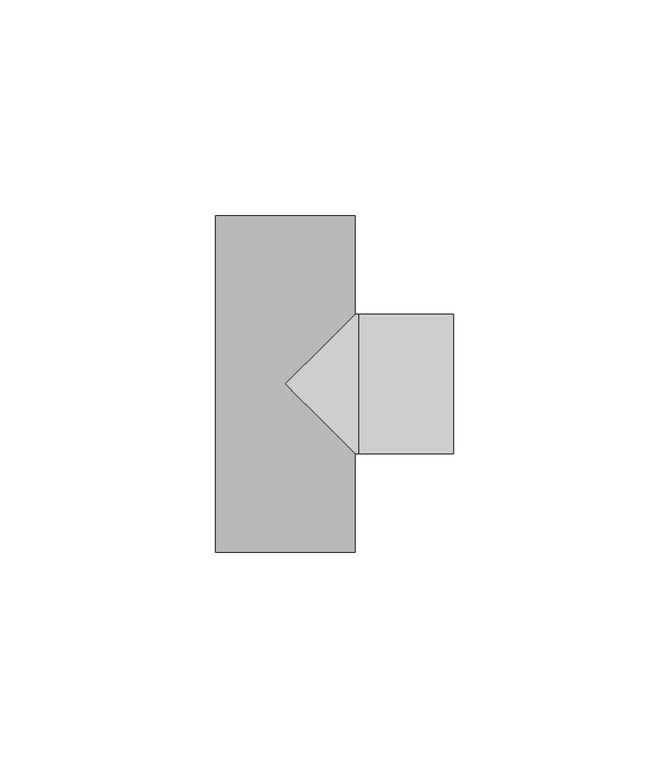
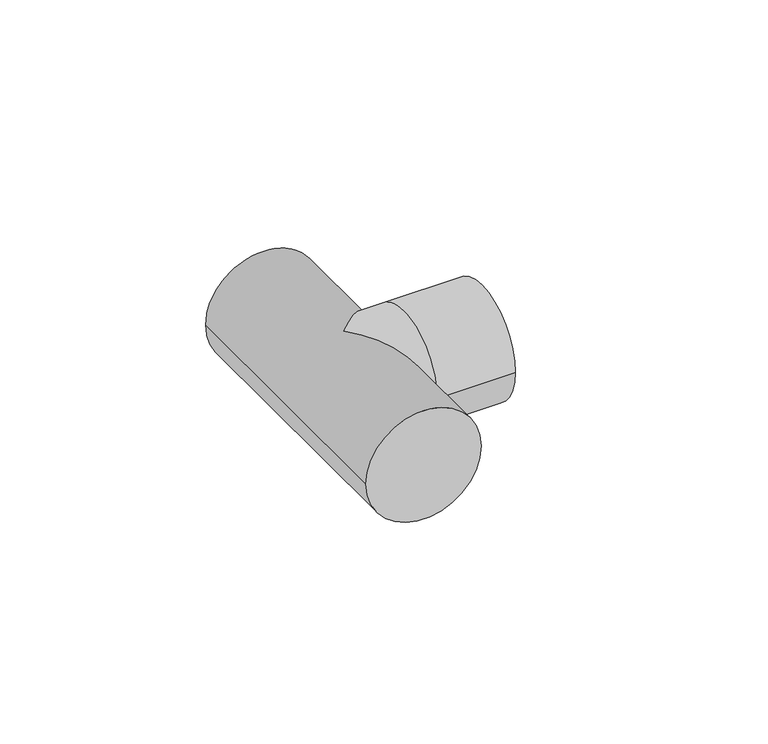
"""IFC4 building model written with IfcOpenShell, lengths in millimetres: pipe fitting geometry, 01051003 : Tes 90º."""

from ifc_helpers import new_model, si_unit, frame, origin, place, context, project, spatial, circle_curve, ellipse_curve, source, transform, mapped, element, save
from ifc_brep_helpers import plane_surface, cylinder_surface, advanced_brep


def pipe_fitting_1fd3e70e(model_context):
    return source(origin(), model_context, "Body", "AdvancedBrep", [
        advanced_brep(
        [(-16.15, 39.0, 0.0), (16.15, 39.0, 0.0), (-16.15, -39.0, 0.0), (16.15, -39.0, 0.0), (16.15, -16.15, 0.0), (0.0, 0.0, 16.15), (16.15, 16.15, 0.0), (0.0, 0.0, -16.15), (39.0, 16.15, 0.0), (39.0, -16.15, 0.0), (17.0, -16.15, 0.0), (17.0, 16.15, 0.0)],
        [
            (0, 1, circle_curve(frame((0.0, 39.0, 0.0), z_axis=(0.0, 1.0, 0.0), x_axis=(1.0, 0.0, 0.0)), 16.15)),
            (1, 0, circle_curve(frame((0.0, 39.0, 0.0), z_axis=(0.0, 1.0, 0.0), x_axis=(1.0, 0.0, 0.0)), 16.15)),
            (2, 3, circle_curve(frame((0.0, -39.0, 0.0), z_axis=(0.0, -1.0, 0.0), x_axis=(1.0, 0.0, 0.0)), 16.15)),
            (3, 2, circle_curve(frame((0.0, -39.0, 0.0), z_axis=(0.0, -1.0, 0.0), x_axis=(1.0, 0.0, 0.0)), 16.15)),
            (0, 2),
            (3, 4),
            (4, 5, ellipse_curve(frame((0.0, 0.0, 0.0), z_axis=(-0.7071067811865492, -0.7071067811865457, 0.0), x_axis=(-0.7071067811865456, 0.7071067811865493, 0.0)), 22.839549, 16.15)),
            (5, 6, ellipse_curve(frame((0.0, 0.0, 0.0), z_axis=(-0.7071067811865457, 0.7071067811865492, 0.0), x_axis=(0.7071067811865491, 0.7071067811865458, 0.0)), 22.839549, 16.15)),
            (6, 1),
            (6, 7, ellipse_curve(frame((0.0, 0.0, 0.0), z_axis=(-0.7071067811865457, 0.7071067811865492, 0.0), x_axis=(0.7071067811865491, 0.7071067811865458, 0.0)), 22.839549, 16.15)),
            (7, 4, ellipse_curve(frame((0.0, 0.0, 0.0), z_axis=(-0.7071067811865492, -0.7071067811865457, 0.0), x_axis=(-0.7071067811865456, 0.7071067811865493, 0.0)), 22.839549, 16.15)),
            (8, 9, circle_curve(frame((39.0, 0.0, 0.0), z_axis=(1.0, 0.0, 0.0), x_axis=(0.0, -1.0, 0.0)), 16.15)),
            (9, 8, circle_curve(frame((39.0, 0.0, 0.0), z_axis=(1.0, 0.0, 0.0), x_axis=(0.0, -1.0, 0.0)), 16.15)),
            (10, 11, circle_curve(frame((17.0, 0.0, 0.0), z_axis=(-1.0, 0.0, 0.0), x_axis=(0.0, -1.0, 0.0)), 16.15)),
            (11, 6),
            (4, 10),
            (11, 10, circle_curve(frame((17.0, 0.0, 0.0), z_axis=(-1.0, 0.0, 0.0), x_axis=(0.0, -1.0, 0.0)), 16.15)),
            (8, 11),
            (10, 9),
        ],
        [
            plane_surface(frame((0.0, 39.0, 0.0), z_axis=(0.0, 1.0, 0.0), x_axis=(0.0, 0.0, 1.0))),
            plane_surface(frame((0.0, -39.0, 0.0), z_axis=(0.0, -1.0, 0.0), x_axis=(0.0, 0.0, 1.0))),
            cylinder_surface(frame((0.0, 39.0, 0.0), z_axis=(0.0, 1.0, 0.0), x_axis=(1.0, 0.0, 0.0)), 16.15),
            plane_surface(frame((39.0, 0.0, 0.0), z_axis=(1.0, 0.0, 0.0), x_axis=(0.0, 0.0, 1.0))),
            cylinder_surface(frame((17.0, 0.0, 0.0), z_axis=(1.0, 0.0, 0.0), x_axis=(0.0, -1.0, 0.0)), 16.15),
            cylinder_surface(frame((39.0, 0.0, 0.0), z_axis=(1.0, 0.0, 0.0), x_axis=(0.0, -1.0, 0.0)), 16.15),
        ],
        [
            (0, [[1, 2]]),
            (1, [[3, 4]]),
            (2, [[-1, 5, -4, 6, 7, 8, 9]]),
            (2, [[-2, -9, 10, 11, -6, -3, -5]]),
            (3, [[12, 13]]),
            (4, [[14, 15, -8, -7, 16]]),
            (4, [[17, -16, -11, -10, -15]]),
            (5, [[-12, 18, -14, 19]]),
            (5, [[-13, -19, -17, -18]]),
        ],
    ),
    ])


if __name__ == "__main__":
    model = new_model("IFC4")
    model_context = context("Model", 3, world=origin())
    ifc_project = project(units=[si_unit("LENGTHUNIT", "METRE", prefix="MILLI")], contexts=[model_context])
    site = spatial("IfcSite", under=ifc_project)
    building = spatial("IfcBuilding", under=site)
    placement = place(None, origin())
    pipe_fitting_shape = pipe_fitting_1fd3e70e(model_context)
    element("IfcPipeFitting", 1, ObjectType="01051003 : Tes 90º", at=placement, inside=building, context=model_context, shape_type="MappedRepresentation", body=[
        mapped(pipe_fitting_shape, transform((0.0, 0.0, 0.0), x_axis=(1.0, 0.0, 0.0), y_axis=(0.0, 1.0, 0.0), z_axis=(0.0, 0.0, 1.0))),
    ])
    save(model, "model.ifc")
